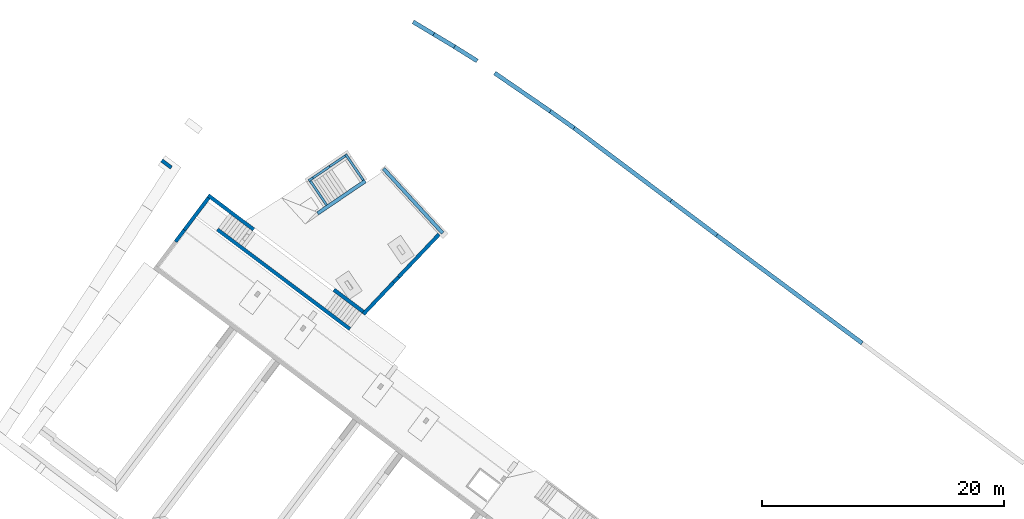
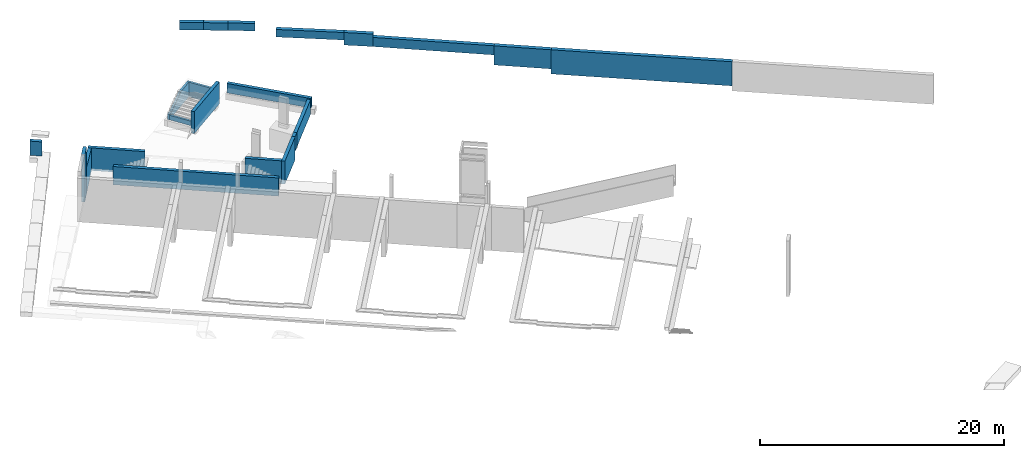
# One storey, part 4 of 11: 22 walls, 1 opening.
"""IFC2X3 building model written with IfcOpenShell, lengths in metres."""

from ifc_helpers import new_model, entity, si_unit, converted_unit, derived_unit, direction, frame, frame_2d, origin, place, context, subcontext, project, spatial, polyline, rectangle, outline, extrude, clip, halfspace, bounded_halfspace, material, layer, layer_set, layer_usage, type_object, element, save


model = new_model("IFC2X3")

# Units and contexts
model_context = context("Model", 3, precision=1e-05, world=origin(), true_north=direction((6.123031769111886e-17, 1.0)))
body_context = subcontext(model_context, "Body", "Model", "MODEL_VIEW")
ifc_project = project(units=[si_unit("LENGTHUNIT", "METRE"), si_unit("AREAUNIT", "SQUARE_METRE"), si_unit("VOLUMEUNIT", "CUBIC_METRE"), converted_unit("PLANEANGLEUNIT", "DEGREE", entity("IfcRatioMeasure", 0.017453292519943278), si_unit("PLANEANGLEUNIT", "RADIAN"), dimensions=[0, 0, 0, 0, 0, 0, 0]), si_unit("MASSUNIT", "GRAM", prefix="KILO"), derived_unit("MASSDENSITYUNIT", [(si_unit("MASSUNIT", "GRAM", prefix="KILO"), 1), (si_unit("LENGTHUNIT", "METRE"), -3)]), derived_unit("IONCONCENTRATIONUNIT", [(si_unit("MASSUNIT", "GRAM", prefix="KILO"), 1), (si_unit("LENGTHUNIT", "METRE"), -3)]), derived_unit("MOMENTOFINERTIAUNIT", [(si_unit("LENGTHUNIT", "METRE"), 4)]), si_unit("TIMEUNIT", "SECOND"), si_unit("FREQUENCYUNIT", "HERTZ"), si_unit("THERMODYNAMICTEMPERATUREUNIT", "DEGREE_CELSIUS"), derived_unit("THERMALTRANSMITTANCEUNIT", [(si_unit("MASSUNIT", "GRAM", prefix="KILO"), 1), (si_unit("THERMODYNAMICTEMPERATUREUNIT", "KELVIN"), -1), (si_unit("TIMEUNIT", "SECOND"), -3)]), derived_unit("THERMALCONDUCTANCEUNIT", [(si_unit("MASSUNIT", "GRAM", prefix="KILO"), 1), (si_unit("THERMODYNAMICTEMPERATUREUNIT", "KELVIN"), -1), (si_unit("TIMEUNIT", "SECOND"), -3), (si_unit("LENGTHUNIT", "METRE"), 1)]), derived_unit("VOLUMETRICFLOWRATEUNIT", [(si_unit("LENGTHUNIT", "METRE"), 3), (si_unit("TIMEUNIT", "SECOND"), -1)]), derived_unit("MASSFLOWRATEUNIT", [(si_unit("MASSUNIT", "GRAM", prefix="KILO"), 1), (si_unit("TIMEUNIT", "SECOND"), -1)]), derived_unit("ROTATIONALFREQUENCYUNIT", [(si_unit("TIMEUNIT", "SECOND"), -1)]), si_unit("ELECTRICCURRENTUNIT", "AMPERE"), si_unit("ELECTRICVOLTAGEUNIT", "VOLT"), si_unit("POWERUNIT", "WATT"), si_unit("FORCEUNIT", "NEWTON", prefix="KILO"), si_unit("ILLUMINANCEUNIT", "LUX"), si_unit("LUMINOUSFLUXUNIT", "LUMEN"), si_unit("LUMINOUSINTENSITYUNIT", "CANDELA"), derived_unit("USERDEFINED", [(si_unit("MASSUNIT", "GRAM", prefix="KILO"), -1), (si_unit("LENGTHUNIT", "METRE"), -2), (si_unit("TIMEUNIT", "SECOND"), 3), (si_unit("LUMINOUSFLUXUNIT", "LUMEN"), 1)]), derived_unit("USERDEFINED", [(si_unit("MASSUNIT", "GRAM", prefix="KILO"), 1), (si_unit("TIMEUNIT", "SECOND"), -3), (si_unit("LENGTHUNIT", "METRE"), 3), (si_unit("ELECTRICCURRENTUNIT", "AMPERE"), -2)]), derived_unit("SOUNDPOWERUNIT", [(si_unit("MASSUNIT", "GRAM", prefix="KILO"), 1), (si_unit("TIMEUNIT", "SECOND"), -3), (si_unit("LENGTHUNIT", "METRE"), 2)]), derived_unit("SOUNDPRESSUREUNIT", [(si_unit("MASSUNIT", "GRAM", prefix="KILO"), 1), (si_unit("LENGTHUNIT", "METRE"), -1), (si_unit("TIMEUNIT", "SECOND"), -2)]), derived_unit("LINEARVELOCITYUNIT", [(si_unit("LENGTHUNIT", "METRE"), 1), (si_unit("TIMEUNIT", "SECOND"), -1)]), si_unit("PRESSUREUNIT", "PASCAL"), derived_unit("USERDEFINED", [(si_unit("MASSUNIT", "GRAM", prefix="KILO"), 1), (si_unit("LENGTHUNIT", "METRE"), -2), (si_unit("TIMEUNIT", "SECOND"), -2)]), derived_unit("LINEARFORCEUNIT", [(si_unit("MASSUNIT", "GRAM", prefix="KILO"), 1), (si_unit("TIMEUNIT", "SECOND"), -2)]), derived_unit("PLANARFORCEUNIT", [(si_unit("MASSUNIT", "GRAM", prefix="KILO"), 1), (si_unit("LENGTHUNIT", "METRE"), -1), (si_unit("TIMEUNIT", "SECOND"), -2)]), derived_unit("SPECIFICHEATCAPACITYUNIT", [(si_unit("THERMODYNAMICTEMPERATUREUNIT", "KELVIN"), -1), (si_unit("LENGTHUNIT", "METRE"), 2), (si_unit("TIMEUNIT", "SECOND"), -2)]), derived_unit("HEATINGVALUEUNIT", [(si_unit("LENGTHUNIT", "METRE"), 2), (si_unit("TIMEUNIT", "SECOND"), -2)]), derived_unit("VAPORPERMEABILITYUNIT", [(si_unit("LENGTHUNIT", "METRE"), -1), (si_unit("TIMEUNIT", "SECOND"), 1)]), derived_unit("DYNAMICVISCOSITYUNIT", [(si_unit("MASSUNIT", "GRAM", prefix="KILO"), 1), (si_unit("TIMEUNIT", "SECOND"), -1), (si_unit("LENGTHUNIT", "METRE"), -1)]), derived_unit("THERMALEXPANSIONCOEFFICIENTUNIT", [(si_unit("THERMODYNAMICTEMPERATUREUNIT", "KELVIN"), -1)]), derived_unit("MODULUSOFELASTICITYUNIT", [(si_unit("MASSUNIT", "GRAM", prefix="KILO"), 1), (si_unit("LENGTHUNIT", "METRE"), -1), (si_unit("TIMEUNIT", "SECOND"), -2)]), derived_unit("ISOTHERMALMOISTURECAPACITYUNIT", [(si_unit("LENGTHUNIT", "METRE"), 3), (si_unit("MASSUNIT", "GRAM", prefix="KILO"), -1)]), derived_unit("MOISTUREDIFFUSIVITYUNIT", [(si_unit("TIMEUNIT", "SECOND"), -1), (si_unit("LENGTHUNIT", "METRE"), 2)])], contexts=[model_context])

# Site, building, storey
site_placement = place(None, origin())
site = spatial("IfcSite", under=ifc_project, at=site_placement, Name="Default", CompositionType="ELEMENT")
building_placement = place(site_placement, frame((0.0, 0.0, 235.0), z_axis=(0.0, 0.0, 1.0), x_axis=(-0.7996477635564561, 0.6004693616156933, 0.0)))
building = spatial("IfcBuilding", under=site, at=building_placement, CompositionType="ELEMENT")
storey_placement = place(building_placement, frame((0.0, 0.0, -4.459999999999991)))
storey = spatial("IfcBuildingStorey", under=building, at=storey_placement, Name="PS1- Vestuari", CompositionType="ELEMENT", Elevation=-4.459999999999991)

# Walls
ifc_material = material(Name="_Formigó- T1- STR")
ifc_layer_1 = layer(ifc_material, 0.29999999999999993)
ifc_layer_set_1 = layer_set([ifc_layer_1], Name="Muro básico:STR- M- Formigó- Genèric- T1- 30 cm")
ifc_layer_usage_1 = layer_usage(ifc_layer_set_1, "AXIS2", "NEGATIVE", 0.14999999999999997)
wall_type_1 = type_object("IfcWallType", Name="Muro básico:STR- M- Formigó- Genèric- T1- 30 cm", PredefinedType="STANDARD", material=ifc_layer_set_1)
wall_1_placement = place(storey_placement, frame((72.44514768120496, -42.19019175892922, -0.4399999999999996), z_axis=(0.0, 0.0, 1.0), x_axis=(-1.0, 0.0, 0.0)))
element("IfcWallStandardCase", 1, at=wall_1_placement, inside=storey, type_object=wall_type_1, material=ifc_layer_usage_1, Name="Muro básico:STR- M- Formigó- Genèric- T1- 30 cm", ObjectType="Muro básico:STR- M- Formigó- Genèric- T1- 30 cm", context=body_context, shape_type="SweptSolid", body=[
    extrude(rectangle(XDim=13.67300000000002, YDim=0.30000000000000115, at=frame_2d((6.83650000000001, -1.1102230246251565e-16), x_axis=(-1.0, 0.0))), origin(), (0.0, 0.0, 1.0), 1.8299999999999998),
])
ifc_layer_usage_2 = layer_usage(ifc_layer_set_1, "AXIS2", "POSITIVE", -0.14999999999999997)
wall_2_placement = place(storey_placement, frame((70.04514768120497, -43.99019175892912, -0.44000000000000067)))
element("IfcWallStandardCase", 2, at=wall_2_placement, inside=storey, type_object=wall_type_1, material=ifc_layer_usage_2, Name="Muro básico:STR- M- Formigó- Genèric- T1- 30 cm", ObjectType="Muro básico:STR- M- Formigó- Genèric- T1- 30 cm", context=body_context, shape_type="SweptSolid", body=[
    extrude(rectangle(XDim=4.69999999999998, YDim=0.3000000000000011, at=frame_2d((2.34999999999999, -9.71445146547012e-17), x_axis=(-1.0, 0.0))), origin(), (0.0, 0.0, 1.0), 2.270000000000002),
])
wall_3_placement = place(storey_placement, frame((58.13077770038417, -48.030587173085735, 0.4099999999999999), z_axis=(0.0, 0.0, 1.0), x_axis=(-0.11422137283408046, -0.9934553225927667, 0.0)))
element("IfcWallStandardCase", 3, at=wall_3_placement, inside=storey, type_object=wall_type_1, material=ifc_layer_usage_2, Name="Muro básico:STR- M- Formigó- Genèric- T1- 30 cm", ObjectType="Muro básico:STR- M- Formigó- Genèric- T1- 30 cm", context=body_context, shape_type="Clipping", body=[
    clip(clip(extrude(outline(polyline([(0.0, -0.15000000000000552), (4.836429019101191, -0.15000000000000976), (4.857347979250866, 0.15000000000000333), (0.0, 0.14999999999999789), (0.0, -0.15000000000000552)])), origin(), (0.0, 0.0, 1.0), 1.4449999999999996), bounded_halfspace(frame((4.836429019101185, -0.15000000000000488, 0.5), z_axis=(0.0, 0.0, 1.0), x_axis=(0.06956096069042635, 0.9975777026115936, 0.0)), True, frame((4.836429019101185, -0.15000000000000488, 0.5), z_axis=(0.0, 0.0, 1.0), x_axis=(0.06956096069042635, 0.9975777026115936, 0.0)), polyline([(0.0, 0.0), (0.010459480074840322, -0.15000000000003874), (0.3111879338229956, -0.15000000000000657), (0.30072845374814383, 0.0), (0.0, 0.0)]))), bounded_halfspace(frame((4.857347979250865, 0.1500000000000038, 0.5), z_axis=(-0.9975777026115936, 0.06956096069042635, 0.0), x_axis=(0.06956096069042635, 0.9975777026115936, 0.0)), True, frame((4.857347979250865, 0.1500000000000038, 0.5), z_axis=(-0.9975777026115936, 0.06956096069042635, 0.0), x_axis=(0.06956096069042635, 0.9975777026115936, 0.0)), polyline([(0.0, 0.0), (0.0, 0.5), (-0.30072845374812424, 0.5), (-0.30072845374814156, 0.0), (0.0, 0.0)]))),
])
wall_4_placement = place(storey_placement, frame((58.199310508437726, -47.434514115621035, 0.4099999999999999), z_axis=(0.0, 0.0, 1.0), x_axis=(-0.11422137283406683, -0.9934553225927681, 0.0)))
element("IfcWallStandardCase", 4, at=wall_4_placement, inside=storey, type_object=wall_type_1, material=ifc_layer_usage_2, Name="Muro básico:STR- M- Formigó- Genèric- T1- 30 cm", ObjectType="Muro básico:STR- M- Formigó- Genèric- T1- 30 cm", context=body_context, shape_type="SweptSolid", body=[
    extrude(rectangle(XDim=0.600000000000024, YDim=0.29999999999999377, at=frame_2d((0.300000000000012, 4.0245584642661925e-16), x_axis=(-1.0, 0.0))), origin(), (0.0, 0.0, 1.0), 1.4449999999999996),
])
wall_5_placement = place(storey_placement, frame((58.19931050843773, -47.434514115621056, -0.4399999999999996), z_axis=(0.0, 0.0, 1.0), x_axis=(0.1142213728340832, 0.9934553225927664, 0.0)))
element("IfcWallStandardCase", 5, at=wall_5_placement, inside=storey, type_object=wall_type_1, material=ifc_layer_usage_1, Name="Muro básico:STR- M- Formigó- Genèric- T1- 30 cm", ObjectType="Muro básico:STR- M- Formigó- Genèric- T1- 30 cm", context=body_context, shape_type="SweptSolid", body=[
    extrude(outline(polyline([(3.6352470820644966, -0.15000000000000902), (3.6007549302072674, 0.1499999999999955), (0.0, 0.14999999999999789), (0.0, -0.15000000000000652), (3.333270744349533, -0.1500000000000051), (3.6352470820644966, -0.15000000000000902)])), origin(), (0.0, 0.0, 1.0), 2.2950000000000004),
])
wall_6_placement = place(storey_placement, frame((58.729059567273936, -43.99019175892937, -0.4399999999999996)))
element("IfcWallStandardCase", 6, at=wall_6_placement, inside=storey, type_object=wall_type_1, material=ifc_layer_usage_1, Name="Muro básico:STR- M- Formigó- Genèric- T1- 30 cm", ObjectType="Muro básico:STR- M- Formigó- Genèric- T1- 30 cm", context=body_context, shape_type="SweptSolid", body=[
    extrude(outline(polyline([(3.043088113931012, -0.15000000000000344), (3.043088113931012, 0.1499999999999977), (0.03449215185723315, 0.14999999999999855), (0.0, -0.15000000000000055), (3.043088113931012, -0.15000000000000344)])), origin(), (0.0, 0.0, 1.0), 2.2950000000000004),
])
wall_7_placement = place(storey_placement, frame((57.38470347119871, -53.11507578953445, 0.9099999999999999), z_axis=(0.0, 0.0, 1.0), x_axis=(0.9831035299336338, -0.18305040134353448, 0.0)))
element("IfcWallStandardCase", 7, at=wall_7_placement, inside=storey, type_object=wall_type_1, material=ifc_layer_usage_2, Name="Muro básico:STR- M- Formigó- Genèric- T1- 30 cm", ObjectType="Muro básico:STR- M- Formigó- Genèric- T1- 30 cm", context=body_context, shape_type="SweptSolid", body=[
    extrude(outline(polyline([(7.23104713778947, -0.14999999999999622), (7.231047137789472, 0.15000000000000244), (0.30072845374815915, 0.15000000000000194), (0.0, 0.1499999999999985), (0.02091896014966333, -0.15000000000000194), (7.23104713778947, -0.14999999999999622)])), origin(), (0.0, 0.0, 1.0), 0.9449999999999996),
])
wall_8_placement = place(storey_placement, frame((66.62518996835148, -48.217884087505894, 0.9099999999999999), z_axis=(0.0, 0.0, 1.0), x_axis=(-0.32415556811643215, -0.946003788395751, 0.0)))
element("IfcWallStandardCase", 8, at=wall_8_placement, inside=storey, type_object=wall_type_1, material=ifc_layer_usage_2, Name="Muro básico:STR- M- Formigó- Genèric- T1- 30 cm", ObjectType="Muro básico:STR- M- Formigó- Genèric- T1- 30 cm", context=body_context, shape_type="SweptSolid", body=[
    extrude(rectangle(XDim=4.75700000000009, YDim=0.3000000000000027, at=frame_2d((2.378500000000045, -1.734723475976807e-15), x_axis=(-1.0, 0.0))), origin(), (0.0, 0.0, 1.0), 2.1999999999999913),
])
wall_9_placement = place(storey_placement, frame((74.59514768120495, -40.510191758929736, -0.4399999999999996), z_axis=(0.0, 0.0, 1.0), x_axis=(0.0, 1.0, 0.0)))
element("IfcWallStandardCase", 9, at=wall_9_placement, inside=storey, type_object=wall_type_1, material=ifc_layer_usage_2, Name="Muro básico:STR- M- Formigó- Genèric- T1- 30 cm", ObjectType="Muro básico:STR- M- Formigó- Genèric- T1- 30 cm", context=body_context, shape_type="SweptSolid", body=[
    extrude(rectangle(XDim=1.195000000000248, YDim=0.3000000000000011, at=frame_2d((0.597500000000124, 0.0), x_axis=(-1.0, 0.0))), origin(), (0.0, 0.0, 1.0), 4.69999999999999),
])
wall_10_placement = place(storey_placement, frame((74.59514768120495, -40.510191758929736, -0.4399999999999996), z_axis=(0.0, 0.0, 1.0), x_axis=(0.0, -1.0, 0.0)))
element("IfcWallStandardCase", 10, at=wall_10_placement, inside=storey, type_object=wall_type_1, material=ifc_layer_usage_1, Name="Muro básico:STR- M- Formigó- Genèric- T1- 30 cm", ObjectType="Muro básico:STR- M- Formigó- Genèric- T1- 30 cm", context=body_context, shape_type="Clipping", body=[
    clip(extrude(rectangle(XDim=3.3299999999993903, YDim=0.30000000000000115, at=frame_2d((1.6649999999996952, -3.469446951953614e-16), x_axis=(-1.0, 0.0))), origin(), (0.0, 0.0, 1.0), 2.6660000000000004), halfspace(frame((0.0, -0.1499999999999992, 2.666), z_axis=(0.11808687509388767, 0.0, 0.9930032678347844), x_axis=(0.0, 1.0, 0.0)), False)),
])
wall_11_placement = place(storey_placement, frame((79.54463943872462, -43.99052213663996, 0.6600000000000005), z_axis=(0.0, 0.0, 1.0), x_axis=(-1.0, 0.0, 0.0)))
element("IfcWallStandardCase", 11, at=wall_11_placement, inside=storey, type_object=wall_type_1, material=ifc_layer_usage_1, Name="Muro básico:STR- M- Formigó- Genèric- T1- 30 cm", ObjectType="Muro básico:STR- M- Formigó- Genèric- T1- 30 cm", context=body_context, shape_type="SweptSolid", body=[
    extrude(outline(polyline([(1.006810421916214, -0.15000000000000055), (0.9870538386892, 0.15000000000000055), (0.0, 0.15000000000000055), (0.0, -0.15000000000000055), (1.006810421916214, -0.15000000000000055)])), origin(), (0.0, 0.0, 1.0), 1.4249999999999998),
])
ifc_layer_2 = layer(ifc_material, 0.35)
ifc_layer_set_2 = layer_set([ifc_layer_2], Name="Muro básico:STR- M- Formigó- Genèric- T1- 35 cm")
ifc_layer_usage_3 = layer_usage(ifc_layer_set_2, "AXIS2", "NEGATIVE", 0.175)
wall_type_2 = type_object("IfcWallType", Name="Muro básico:STR- M- Formigó- Genèric- T1- 35 cm", PredefinedType="STANDARD", material=ifc_layer_set_2)
wall_12_placement = place(storey_placement, frame((69.82176257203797, -65.59247390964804, -0.9649999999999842), z_axis=(0.0, 0.0, 1.0), x_axis=(-0.9947053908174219, -0.10276762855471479, 0.0)))
element("IfcWallStandardCase", 12, at=wall_12_placement, inside=storey, type_object=wall_type_2, material=ifc_layer_usage_3, Name="Muro básico:STR- M- Formigó- Genèric- T1- 35 cm", ObjectType="Muro básico:STR- M- Formigó- Genèric- T1- 35 cm", context=body_context, shape_type="SweptSolid", body=[
    extrude(outline(polyline([(1.9920478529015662, -0.17499999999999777), (1.992047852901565, 0.1750000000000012), (0.0, 0.17499999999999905), (0.006521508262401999, -0.17499999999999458), (1.9920478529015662, -0.17499999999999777)])), origin(), (0.0, 0.0, 1.0), 0.749999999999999),
])
wall_13_placement = place(storey_placement, frame((65.85252240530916, -66.0025868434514, -0.9649999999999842), z_axis=(0.0, 0.0, 1.0), x_axis=(-0.9964923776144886, -0.08368357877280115, 0.0)))
element("IfcWallStandardCase", 13, at=wall_13_placement, inside=storey, type_object=wall_type_2, material=ifc_layer_usage_3, Name="Muro básico:STR- M- Formigó- Genèric- T1- 35 cm", ObjectType="Muro básico:STR- M- Formigó- Genèric- T1- 35 cm", context=body_context, shape_type="SweptSolid", body=[
    extrude(outline(polyline([(2.2045988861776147, -0.17499999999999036), (2.212422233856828, 0.17500000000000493), (0.0, 0.1750000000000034), (0.0033544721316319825, -0.17499999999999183), (2.2045988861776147, -0.17499999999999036)])), origin(), (0.0, 0.0, 1.0), 0.749999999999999),
])
wall_14_placement = place(storey_placement, frame((67.84026183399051, -65.79719194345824, -0.9649999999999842), z_axis=(0.0, 0.0, 1.0), x_axis=(-0.9947053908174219, -0.10276762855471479, 0.0)))
element("IfcWallStandardCase", 14, at=wall_14_placement, inside=storey, type_object=wall_type_2, material=ifc_layer_usage_3, Name="Muro básico:STR- M- Formigó- Genèric- T1- 35 cm", ObjectType="Muro básico:STR- M- Formigó- Genèric- T1- 35 cm", context=body_context, shape_type="SweptSolid", body=[
    extrude(outline(polyline([(1.998322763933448, -0.17500000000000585), (2.0016772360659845, 0.1749999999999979), (0.0, 0.17499999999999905), (0.0, -0.1749999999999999), (1.998322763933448, -0.17500000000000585)])), origin(), (0.0, 0.0, 1.0), 0.749999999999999),
])
wall_15_placement = place(storey_placement, frame((61.902698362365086, -66.25579733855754, -1.4649999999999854), z_axis=(0.0, 0.0, 1.0), x_axis=(-0.9991025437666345, -0.04235690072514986, 0.0)))
element("IfcWallStandardCase", 15, at=wall_15_placement, inside=storey, type_object=wall_type_2, material=ifc_layer_usage_3, Name="Muro básico:STR- M- Formigó- Genèric- T1- 35 cm", ObjectType="Muro básico:STR- M- Formigó- Genèric- T1- 35 cm", context=body_context, shape_type="SweptSolid", body=[
    extrude(outline(polyline([(5.574803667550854, -0.17500000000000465), (5.577298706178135, 0.1750000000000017), (0.000574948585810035, 0.17499999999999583), (0.0, -0.17500000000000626), (5.574803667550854, -0.17500000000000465)])), origin(), (0.0, 0.0, 1.0), 0.7500000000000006),
])
wall_16_placement = place(storey_placement, frame((56.33289846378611, -66.49194651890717, -1.9649999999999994), z_axis=(0.0, 0.0, 1.0), x_axis=(-0.9996048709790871, -0.02810875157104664, 0.0)))
element("IfcWallStandardCase", 16, at=wall_16_placement, inside=storey, type_object=wall_type_2, material=ifc_layer_usage_3, Name="Muro básico:STR- M- Formigó- Genèric- T1- 35 cm", ObjectType="Muro básico:STR- M- Formigó- Genèric- T1- 35 cm", context=body_context, shape_type="SweptSolid", body=[
    extrude(outline(polyline([(0.0, 0.1749999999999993), (0.0024950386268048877, -0.17500000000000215), (0.004990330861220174, -0.17499999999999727), (2.4007736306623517, -0.17500000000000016), (2.4056936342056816, 0.17499999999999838), (0.0, 0.1749999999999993)])), origin(), (0.0, 0.0, 1.0), 1.2500000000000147),
])
wall_17_placement = place(storey_placement, frame((53.93307442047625, -66.55949841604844, -1.9649999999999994), z_axis=(0.0, 0.0, 1.0), x_axis=(-1.0, 0.0, 0.0)))
element("IfcWallStandardCase", 17, at=wall_17_placement, inside=storey, type_object=wall_type_2, material=ifc_layer_usage_3, Name="Muro básico:STR- M- Formigó- Genèric- T1- 35 cm", ObjectType="Muro básico:STR- M- Formigó- Genèric- T1- 35 cm", context=body_context, shape_type="SweptSolid", body=[
    extrude(outline(polyline([(10.005412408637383, -0.17499999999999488), (10.005412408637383, 0.17500000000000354), (0.0, 0.17500000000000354), (0.004920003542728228, -0.17499999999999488), (10.005412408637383, -0.17499999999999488)])), origin(), (0.0, 0.0, 1.0), 0.9150000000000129),
])
wall_18_placement = place(storey_placement, frame((43.92766201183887, -66.55949841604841, -2.9649999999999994), z_axis=(0.0, 0.0, 1.0), x_axis=(-1.0, 0.0, 0.0)))
element("IfcWallStandardCase", 18, at=wall_18_placement, inside=storey, type_object=wall_type_2, material=ifc_layer_usage_3, Name="Muro básico:STR- M- Formigó- Genèric- T1- 35 cm", ObjectType="Muro básico:STR- M- Formigó- Genèric- T1- 35 cm", context=body_context, shape_type="SweptSolid", body=[
    extrude(outline(polyline([(4.725144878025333, -0.17499999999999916), (4.724196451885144, 0.17499999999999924), (0.0, 0.17500000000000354), (0.0, -0.17499999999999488), (4.725144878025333, -0.17499999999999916)])), origin(), (0.0, 0.0, 1.0), 1.9150000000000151),
])
wall_19_placement = place(storey_placement, frame((39.20346555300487, -66.5594958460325, -3.4649999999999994), z_axis=(0.0, 0.0, 1.0), x_axis=(-0.9999853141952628, -0.005419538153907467, 0.0)))
element("IfcWallStandardCase", 19, at=wall_19_placement, inside=storey, type_object=wall_type_2, material=ifc_layer_usage_3, Name="Muro básico:STR- M- Formigó- Genèric- T1- 35 cm", ObjectType="Muro básico:STR- M- Formigó- Genèric- T1- 35 cm", context=body_context, shape_type="SweptSolid", body=[
    extrude(outline(polyline([(14.94332462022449, -0.17500000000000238), (14.943324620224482, 0.17499999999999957), (0.0009484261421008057, 0.1750000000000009), (0.0, -0.175000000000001), (14.94332462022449, -0.17500000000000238)])), origin(), (0.0, 0.0, 1.0), 2.4150000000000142),
])
ifc_layer_3 = layer(ifc_material, 0.2)
ifc_layer_set_3 = layer_set([ifc_layer_3], Name="Muro básico:STR- M- Formigó- Genèric- T1- 20 cm")
ifc_layer_usage_4 = layer_usage(ifc_layer_set_3, "AXIS2", "POSITIVE", -0.1)
wall_type_3 = type_object("IfcWallType", Name="Muro básico:STR- M- Formigó- Genèric- T1- 20 cm", PredefinedType="STANDARD", material=ifc_layer_set_3)
wall_20_placement = place(storey_placement, frame((65.25749805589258, -52.67204706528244, 0.9099999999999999), z_axis=(0.0, 0.0, 1.0), x_axis=(0.9460037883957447, -0.3241555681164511, 0.0)))
element("IfcWallStandardCase", 20, at=wall_20_placement, inside=storey, type_object=wall_type_3, material=ifc_layer_usage_4, Name="Muro básico:STR- M- Formigó- Genèric- T1- 20 cm", ObjectType="Muro básico:STR- M- Formigó- Genèric- T1- 20 cm", context=body_context, shape_type="SweptSolid", body=[
    extrude(rectangle(XDim=2.5949999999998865, YDim=0.1999999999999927, at=frame_2d((1.2974999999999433, -1.2836953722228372e-15), x_axis=(-1.0, 0.0))), origin(), (0.0, 0.0, 1.0), 1.4679999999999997),
])

# Wall, opening
wall_21_placement = place(storey_placement, frame((67.6501930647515, -53.38621482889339, 0.9099999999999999), z_axis=(0.0, 0.0, 1.0), x_axis=(0.3241555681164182, 0.9460037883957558, 0.0)))
wall_21 = element("IfcWallStandardCase", 21, at=wall_21_placement, inside=storey, type_object=wall_type_3, material=ifc_layer_usage_4, Name="Muro básico:STR- M- Formigó- Genèric- T1- 20 cm", ObjectType="Muro básico:STR- M- Formigó- Genèric- T1- 20 cm", context=body_context, shape_type="SweptSolid", body=[
    extrude(rectangle(XDim=3.650000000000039, YDim=0.2000000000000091, at=frame_2d((1.8250000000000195, 3.282096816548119e-15), x_axis=(-1.0, 0.0))), origin(), (0.0, 0.0, 1.0), 1.4699999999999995),
])
opening_placement = place(wall_21_placement, origin())
element("IfcOpeningElement", 22, at=opening_placement, cuts=wall_21, Name="Muro básico:STR- M- Formigó- Genèric- T1- 20 cm", ObjectType="Opening", context=body_context, shape_type="SweptSolid", body=[
    extrude(outline(polyline([(-0.5466666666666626, -0.9249999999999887), (0.37333333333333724, -0.9249999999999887), (0.37333333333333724, 1.1749999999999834), (0.34666666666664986, 1.1749999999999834), (-0.5466666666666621, -0.5000000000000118), (-0.5466666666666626, -0.9249999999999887)])), frame((2.725000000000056, 0.0999999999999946, 1.0966666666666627), z_axis=(0.0, -1.0, 0.0), x_axis=(0.0, 0.0, 1.0)), (0.0, 0.0, 1.0), 0.20000000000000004),
])

# Wall
wall_22_placement = place(storey_placement, frame((68.70634495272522, -49.995485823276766, 0.9099999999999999), z_axis=(0.0, 0.0, 1.0), x_axis=(-0.9460037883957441, 0.32415556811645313, 0.0)))
element("IfcWallStandardCase", 23, at=wall_22_placement, inside=storey, type_object=wall_type_3, material=ifc_layer_usage_4, Name="Muro básico:STR- M- Formigó- Genèric- T1- 20 cm", ObjectType="Muro básico:STR- M- Formigó- Genèric- T1- 20 cm", context=body_context, shape_type="SweptSolid", body=[
    extrude(rectangle(XDim=2.3949999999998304, YDim=0.1999999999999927, at=frame_2d((1.1974999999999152, -2.0816681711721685e-16), x_axis=(-1.0, 0.0))), origin(), (0.0, 0.0, 1.0), 0.4499999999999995),
])

save(model, "model.ifc")
